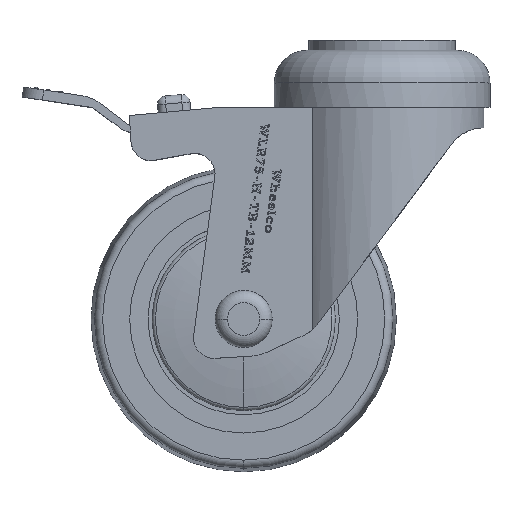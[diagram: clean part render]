
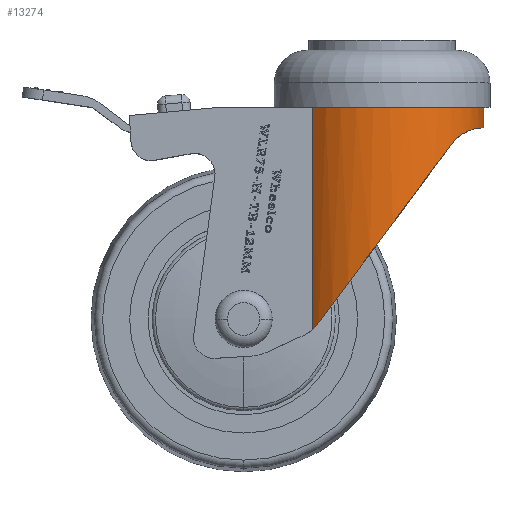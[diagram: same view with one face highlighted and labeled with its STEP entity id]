
A CAD part, top view. The second image highlights one B-rep face of the part: STEP entity #13274.
In plain terms, the highlighted cylindrical face has radius 25 mm (diameter 50 mm), a partial arc.
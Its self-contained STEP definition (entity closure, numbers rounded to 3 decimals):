
#727 = CARTESIAN_POINT ( 'NONE',  ( -18.25, 0., 17.086 ) ) ;
#983 = EDGE_CURVE ( 'NONE', #2445, #17002, #1398, .T. ) ;
#1117 = ORIENTED_EDGE ( 'NONE', *, *, #29719, .T. ) ;
#1398 = LINE ( 'NONE', #22901, #15621 ) ;
#1813 = CARTESIAN_POINT ( 'NONE',  ( -8.754, 5.125, -23.434 ) ) ;
#1965 = CARTESIAN_POINT ( 'NONE',  ( -15.249, 6.464, -19.815 ) ) ;
#2070 = ORIENTED_EDGE ( 'NONE', *, *, #19411, .T. ) ;
#2298 = CARTESIAN_POINT ( 'NONE',  ( -27.625, 39.276, 5.423 ) ) ;
#2445 = VERTEX_POINT ( 'NONE', #7574 ) ;
#3055 = DIRECTION ( 'NONE',  ( 0., -1., 0. ) ) ;
#3176 = VERTEX_POINT ( 'NONE', #18197 ) ;
#4112 = CARTESIAN_POINT ( 'NONE',  ( -17.382, 7.872, -17.985 ) ) ;
#5530 = LINE ( 'NONE', #7543, #10291 ) ;
#5592 = CARTESIAN_POINT ( 'NONE',  ( -19.571, 52.937, 15.556 ) ) ;
#5953 = VERTEX_POINT ( 'NONE', #7918 ) ;
#6147 = CARTESIAN_POINT ( 'NONE',  ( -1.784, 5., -24.952 ) ) ;
#6765 = CARTESIAN_POINT ( 'NONE',  ( -19.571, 52.937, 15.556 ) ) ;
#7543 = CARTESIAN_POINT ( 'NONE',  ( -18.25, 65., 17.086 ) ) ;
#7574 = CARTESIAN_POINT ( 'NONE',  ( 0., 5., -25. ) ) ;
#7671 = VERTEX_POINT ( 'NONE', #727 ) ;
#7918 = CARTESIAN_POINT ( 'NONE',  ( -18.25, 54.578, 17.086 ) ) ;
#8439 = B_SPLINE_CURVE_WITH_KNOTS ( 'NONE', 3,
 ( #10696, #17837, #15645, #5592 ),
 .UNSPECIFIED., .F., .F.,
 ( 4, 4 ),
 ( 0., 0.003 ),
 .UNSPECIFIED. ) ;
#8478 = CARTESIAN_POINT ( 'NONE',  ( -10.792, 5.31, -22.555 ) ) ;
#8619 = CARTESIAN_POINT ( 'NONE',  ( -13.509, 5.813, -21.054 ) ) ;
#8633 = DIRECTION ( 'NONE',  ( 0., -1., 0. ) ) ;
#9998 = ORIENTED_EDGE ( 'NONE', *, *, #983, .T. ) ;
#10291 = VECTOR ( 'NONE', #3055, 1000. ) ;
#10451 = VERTEX_POINT ( 'NONE', #25478 ) ;
#10696 = CARTESIAN_POINT ( 'NONE',  ( -18.25, 54.578, 17.086 ) ) ;
#10867 = FACE_OUTER_BOUND ( 'NONE', #20184, .T. ) ;
#11248 = CARTESIAN_POINT ( 'NONE',  ( -6.194, 5.032, -24.225 ) ) ;
#11899 = DIRECTION ( 'NONE',  ( 0., 1., 0. ) ) ;
#13274 = ADVANCED_FACE ( 'NONE', ( #10867 ), #22342, .T. ) ;
#13422 = CARTESIAN_POINT ( 'NONE',  ( -5.756, 5.024, -24.332 ) ) ;
#13467 = EDGE_CURVE ( 'NONE', #5953, #7671, #5530, .T. ) ;
#13586 = DIRECTION ( 'NONE',  ( 0., 0., 1. ) ) ;
#13896 = CARTESIAN_POINT ( 'NONE',  ( 0., 0., 0. ) ) ;
#15452 = CARTESIAN_POINT ( 'NONE',  ( -0.894, 5., -25. ) ) ;
#15621 = VECTOR ( 'NONE', #8633, 1000. ) ;
#15645 = CARTESIAN_POINT ( 'NONE',  ( -19.196, 53.573, 16.027 ) ) ;
#15751 = ORIENTED_EDGE ( 'NONE', *, *, #16116, .T. ) ;
#16116 = EDGE_CURVE ( 'NONE', #10451, #2445, #19863, .T. ) ;
#16704 = AXIS2_PLACEMENT_3D ( 'NONE', #17537, #26988, #20324 ) ;
#17002 = VERTEX_POINT ( 'NONE', #22388 ) ;
#17537 = CARTESIAN_POINT ( 'NONE',  ( 0., 65., 0. ) ) ;
#17783 = CARTESIAN_POINT ( 'NONE',  ( -14.23, 6.031, -20.572 ) ) ;
#17837 = CARTESIAN_POINT ( 'NONE',  ( -18.757, 54.114, 16.544 ) ) ;
#17935 = CARTESIAN_POINT ( 'NONE',  ( -9.581, 5.18, -23.108 ) ) ;
#18083 = CARTESIAN_POINT ( 'NONE',  ( -12.369, 5.558, -21.73 ) ) ;
#18197 = CARTESIAN_POINT ( 'NONE',  ( -19.571, 52.937, 15.556 ) ) ;
#18229 = CARTESIAN_POINT ( 'NONE',  ( -17.889, 8.404, -17.476 ) ) ;
#18381 = CARTESIAN_POINT ( 'NONE',  ( -7.486, 5.068, -23.857 ) ) ;
#19408 = EDGE_CURVE ( 'NONE', #10451, #3176, #29061, .T. ) ;
#19411 = EDGE_CURVE ( 'NONE', #17002, #7671, #24045, .T. ) ;
#19689 = ORIENTED_EDGE ( 'NONE', *, *, #13467, .F. ) ;
#19863 = B_SPLINE_CURVE_WITH_KNOTS ( 'NONE', 3,
 ( #25348, #18229, #4112, #20409, #20261, #23031, #1965, #17783, #8619, #18083, #27242, #22740, #8478, #17935, #1813, #18381, #20552, #11248, #13422, #27384, #20702, #6147, #15452, #22885 ),
 .UNSPECIFIED., .F., .F.,
 ( 4, 2, 2, 2, 2, 2, 2, 2, 2, 2, 2, 4 ),
 ( 0., 0.003, 0.004, 0.005, 0.008, 0.009, 0.011, 0.013, 0.015, 0.016, 0.019, 0.021 ),
 .UNSPECIFIED. ) ;
#20184 = EDGE_LOOP ( 'NONE', ( #15751, #9998, #2070, #19689, #1117, #27935 ) ) ;
#20261 = CARTESIAN_POINT ( 'NONE',  ( -16.215, 6.994, -19.033 ) ) ;
#20324 = DIRECTION ( 'NONE',  ( 0., 0., -1. ) ) ;
#20409 = CARTESIAN_POINT ( 'NONE',  ( -16.521, 7.199, -18.768 ) ) ;
#20552 = CARTESIAN_POINT ( 'NONE',  ( -7.058, 5.054, -23.987 ) ) ;
#20702 = CARTESIAN_POINT ( 'NONE',  ( -3.557, 5.003, -24.762 ) ) ;
#22342 = CYLINDRICAL_SURFACE ( 'NONE', #16704, 25. ) ;
#22388 = CARTESIAN_POINT ( 'NONE',  ( 0., 0., -25. ) ) ;
#22740 = CARTESIAN_POINT ( 'NONE',  ( -11.191, 5.362, -22.36 ) ) ;
#22885 = CARTESIAN_POINT ( 'NONE',  ( 0., 5., -25. ) ) ;
#22901 = CARTESIAN_POINT ( 'NONE',  ( 0., 65., -25. ) ) ;
#23031 = CARTESIAN_POINT ( 'NONE',  ( -15.578, 6.626, -19.557 ) ) ;
#24045 = CIRCLE ( 'NONE', #26524, 25. ) ;
#25348 = CARTESIAN_POINT ( 'NONE',  ( -18.329, 9.043, -17.001 ) ) ;
#25478 = CARTESIAN_POINT ( 'NONE',  ( -18.329, 9.043, -17.001 ) ) ;
#26524 = AXIS2_PLACEMENT_3D ( 'NONE', #13896, #11899, #13586 ) ;
#26988 = DIRECTION ( 'NONE',  ( 0., -1., 0. ) ) ;
#27242 = CARTESIAN_POINT ( 'NONE',  ( -11.979, 5.485, -21.948 ) ) ;
#27384 = CARTESIAN_POINT ( 'NONE',  ( -4.439, 5.007, -24.619 ) ) ;
#27935 = ORIENTED_EDGE ( 'NONE', *, *, #19408, .F. ) ;
#28166 = CARTESIAN_POINT ( 'NONE',  ( -27.132, 21.837, -7.512 ) ) ;
#28320 = CARTESIAN_POINT ( 'NONE',  ( -18.329, 9.043, -17.001 ) ) ;
#29061 =( BOUNDED_CURVE ( )  B_SPLINE_CURVE ( 3, ( #28320, #28166, #2298, #6765 ),
 .UNSPECIFIED., .F., .T. ) 
 B_SPLINE_CURVE_WITH_KNOTS ( ( 4, 4 ),
 ( 0.823, 2.242 ),
 .UNSPECIFIED. ) 
 CURVE ( )  GEOMETRIC_REPRESENTATION_ITEM ( )  RATIONAL_B_SPLINE_CURVE ( ( 1., 0.839, 0.839, 1. ) ) 
 REPRESENTATION_ITEM ( '' )  );
#29719 = EDGE_CURVE ( 'NONE', #5953, #3176, #8439, .T. ) ;
